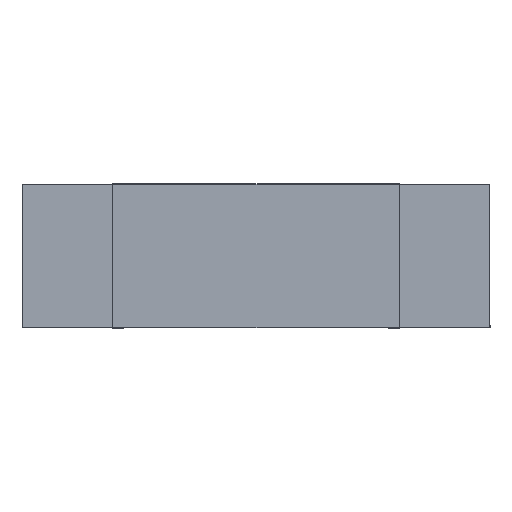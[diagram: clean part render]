
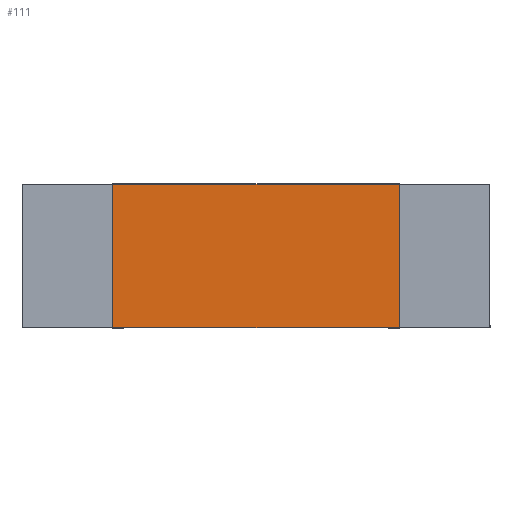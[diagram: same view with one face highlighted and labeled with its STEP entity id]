
A CAD part, top view. The second image highlights one B-rep face of the part: STEP entity #111.
In plain terms, the highlighted planar face has unit normal (0, 0, 1).
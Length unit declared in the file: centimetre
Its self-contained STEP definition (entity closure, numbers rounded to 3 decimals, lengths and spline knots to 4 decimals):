
#111=ADVANCED_FACE($,(#301),#2329,.T.);
#301=FACE_OUTER_BOUND($,#491,.T.);
#491=EDGE_LOOP($,(#932,#933,#934,#935));
#932=ORIENTED_EDGE($,*,*,#1670,.F.);
#933=ORIENTED_EDGE($,*,*,#1674,.F.);
#934=ORIENTED_EDGE($,*,*,#1677,.F.);
#935=ORIENTED_EDGE($,*,*,#1679,.F.);
#1670=EDGE_CURVE($,#2070,#2071,#2610,.T.);
#1674=EDGE_CURVE($,#2073,#2070,#2614,.T.);
#1677=EDGE_CURVE($,#2075,#2073,#2617,.T.);
#1679=EDGE_CURVE($,#2071,#2075,#2619,.T.);
#2070=VERTEX_POINT($,#4102);
#2071=VERTEX_POINT($,#4103);
#2073=VERTEX_POINT($,#4105);
#2075=VERTEX_POINT($,#4107);
#2329=PLANE($,#3039);
#2610=B_SPLINE_CURVE_WITH_KNOTS($,1,(#4074,#4075),.UNSPECIFIED.,.F.,.F.,
(2,2),(-896.,0.),.UNSPECIFIED.);
#2614=B_SPLINE_CURVE_WITH_KNOTS($,1,(#4082,#4083),.UNSPECIFIED.,.F.,.F.,
(2,2),(-1790.,0.),.UNSPECIFIED.);
#2617=B_SPLINE_CURVE_WITH_KNOTS($,1,(#4088,#4089),.UNSPECIFIED.,.F.,.F.,
(2,2),(-896.,0.),.UNSPECIFIED.);
#2619=B_SPLINE_CURVE_WITH_KNOTS($,1,(#4092,#4093),.UNSPECIFIED.,.F.,.F.,
(2,2),(-1790.,0.),.UNSPECIFIED.);
#3039=AXIS2_PLACEMENT_3D($,#4099,#3212,$);
#3212=DIRECTION($,(0.,0.,1.));
#4074=CARTESIAN_POINT($,(0.55,-38.7,75.0514));
#4075=CARTESIAN_POINT($,(0.55,50.9,75.0514));
#4082=CARTESIAN_POINT($,(179.55,-38.7,75.0514));
#4083=CARTESIAN_POINT($,(0.55,-38.7,75.0514));
#4088=CARTESIAN_POINT($,(179.55,50.9,75.0514));
#4089=CARTESIAN_POINT($,(179.55,-38.7,75.0514));
#4092=CARTESIAN_POINT($,(0.55,50.9,75.0514));
#4093=CARTESIAN_POINT($,(179.55,50.9,75.0514));
#4099=CARTESIAN_POINT($,(0.55,50.9,75.0514));
#4102=CARTESIAN_POINT($,(0.55,-38.7,75.0514));
#4103=CARTESIAN_POINT($,(0.55,50.9,75.0514));
#4105=CARTESIAN_POINT($,(179.55,-38.7,75.0514));
#4107=CARTESIAN_POINT($,(179.55,50.9,75.0514));
